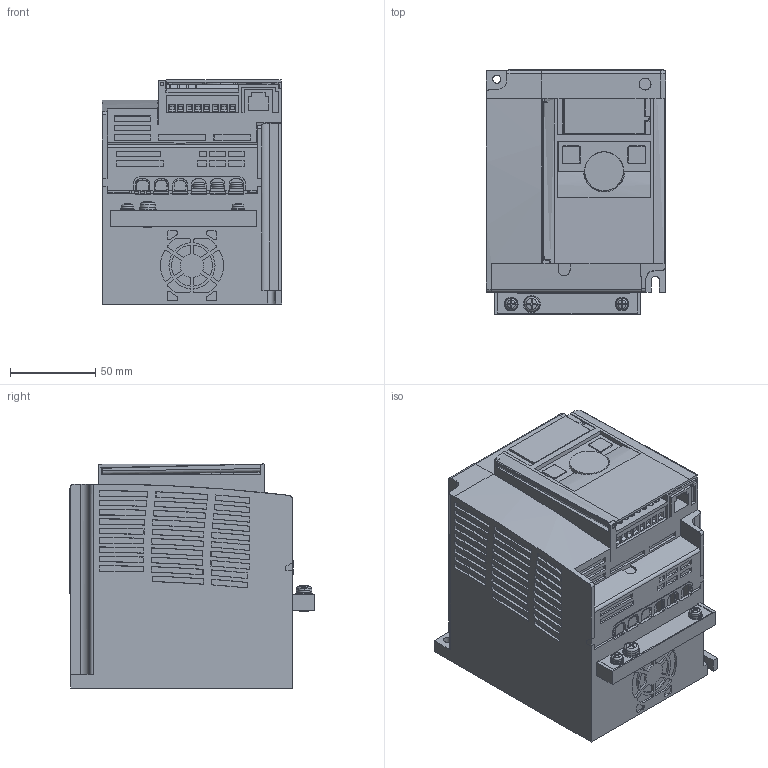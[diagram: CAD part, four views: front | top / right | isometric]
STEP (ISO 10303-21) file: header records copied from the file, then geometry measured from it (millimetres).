
FILE_DESCRIPTION((''),'2;1');
FILE_NAME('NC3_S2F_D_ASM','2026-04-08T15:57:08',('SESA728268'),('Schneider-Electric'),'CREO PARAMETRIC BY PTC INC, 2025093','CREO PARAMETRIC BY PTC INC, 2025093','');
FILE_SCHEMA(('AP242_MANAGED_MODEL_BASED_3D_ENGINEERING_MIM_LF { 1 0 10303 442 1 1 4 }'));
Length unit declared in the file: millimetre
Products named in the file (19): DRIVE_S2F; CONTROL_TERM_COVER; TERM_COVER_S2F_1; TERM_COVER_S2F_2; SCREW_M4_S2F-83762; SCREW_M4_S2F-84610; SCREW_M5_S2F; TERM_SCREW_S2F_1-88994; TERM_SCREW_S2F_1-89997; TERM_SCREW_S2F_1-91000; TERM_SCREW_S2F_1-92003; TERM_SCREW_S2F_1-93006; TERM_SCREW_S2F_1-94009; SHUNT-BAR_S2F; TERM_SCREW_S2F_2-98969; TERM_SCREW_S2F_2-99804; TERM_SCREW_S2F_2-100639; TERM_SCREW_S2F_2-101474; NC3_S2F_D_ASM
Assembly tree (18 placements, depth 2):
  NC3_S2F_D_ASM
    DRIVE_S2F
    CONTROL_TERM_COVER
    TERM_COVER_S2F_1
    TERM_COVER_S2F_2
    SCREW_M4_S2F-83762
    SCREW_M4_S2F-84610
    SCREW_M5_S2F
    TERM_SCREW_S2F_1-88994
    TERM_SCREW_S2F_1-89997
    TERM_SCREW_S2F_1-91000
    TERM_SCREW_S2F_1-92003
    TERM_SCREW_S2F_1-93006
    TERM_SCREW_S2F_1-94009
    SHUNT-BAR_S2F
    TERM_SCREW_S2F_2-98969
    TERM_SCREW_S2F_2-99804
    TERM_SCREW_S2F_2-100639
    TERM_SCREW_S2F_2-101474
Bounding box: 105 x 143.5 x 131.4 mm (x, y, z)
Volume: 1555713.5 mm3; surface area: 149217.8 mm2
Topology: 18 solids, 20 shells, 1961 faces, 5420 edges, 3657 vertices
Faces by surface type: plane 1401, cylinder 280, cone 212, torus 26, sphere 26, bspline 15, extrusion 1
Entity records: 79201 total; most frequent: CARTESIAN_POINT 14635, ORIENTED_EDGE 10784, DIRECTION 9658, EDGE_CURVE 5392, VERTEX_POINT 3657, VECTOR 3646, LINE 3645, AXIS2_PLACEMENT_3D 3006
